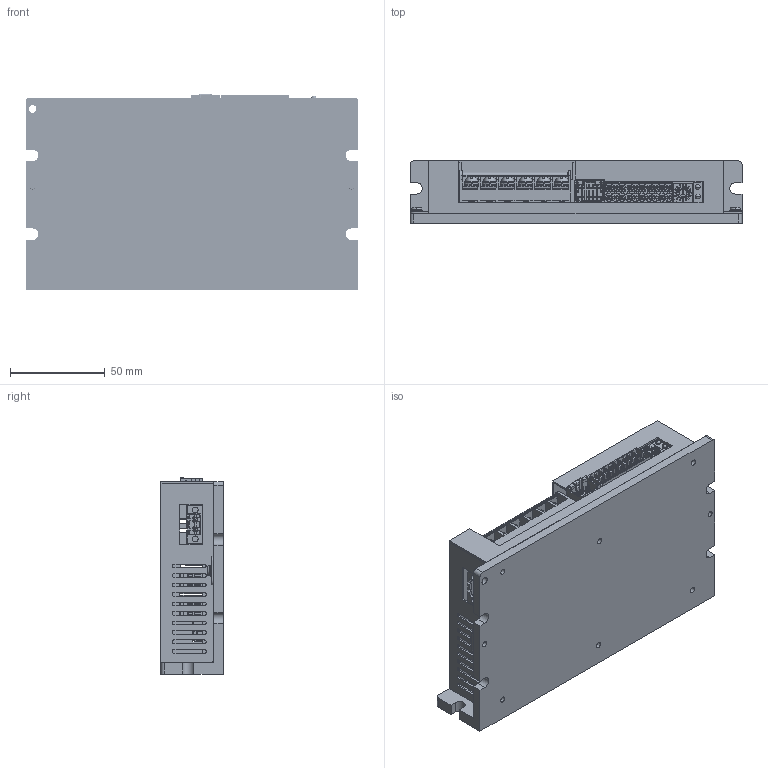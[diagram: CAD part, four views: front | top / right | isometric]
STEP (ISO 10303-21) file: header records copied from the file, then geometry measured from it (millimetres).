
FILE_DESCRIPTION((''),'2;1');
FILE_NAME('ASM0001_LD2_RS7030_ASM_21_ASM_ASM','2021-07-21T',('sunjun'),(''),'PRO/ENGINEER BY PARAMETRIC TECHNOLOGY CORPORATION, 2008090','PRO/ENGINEER BY PARAMETRIC TECHNOLOGY CORPORATION, 2008090','');
FILE_SCHEMA(('CONFIG_CONTROL_DESIGN'));
Length unit declared in the file: millimetre
Products named in the file (21): DB_LD2_RS7030_8; GZ_LD2_RS7030_12; PCB_LD2_RS7030_6; 559591230_1; PHOENIX______2__10_1; ROTARY_DRR3016-Z_FUJISOKU__1; LED_GREEN_RED_1; DIP_SWITCH_4PIN_VIC2_1; 559591030_1; HEADER_2_0_4X_1; CONNECTOR_5MMCLOSED2PIN_MALE_4; MANIFOLD_SOLID_BREP_102974_2; 1111_2; YK44106_1_ASM_3_ASM_ASM; PCB_LD2_RS7030_ASM_8_ASM_ASM; M3_1; M4X10_GB818_1_1; D4_GB9074_26_1_1; D4_GB9074_24_1_1; M4X10_GB9074_4_ASM_1_ASM_ASM; ASM0001_LD2_RS7030_ASM_21_ASM_ASM
Assembly tree (27 placements, depth 4):
  ASM0001_LD2_RS7030_ASM_21_ASM_ASM
    DB_LD2_RS7030_8
    GZ_LD2_RS7030_12
    PCB_LD2_RS7030_ASM_8_ASM_ASM
      PCB_LD2_RS7030_6
      559591230_1
      PHOENIX______2__10_1
      ROTARY_DRR3016-Z_FUJISOKU__1
      LED_GREEN_RED_1
      DIP_SWITCH_4PIN_VIC2_1
      559591030_1  x2
      HEADER_2_0_4X_1
      CONNECTOR_5MMCLOSED2PIN_MALE_4
      YK44106_1_ASM_3_ASM_ASM
        MANIFOLD_SOLID_BREP_102974_2
        1111_2
    M3_1  x2
    M4X10_GB9074_4_ASM_1_ASM_ASM  x6
      M4X10_GB818_1_1
      D4_GB9074_26_1_1
      D4_GB9074_24_1_1
Bounding box: 175 x 33 x 103.45 mm (x, y, z)
Volume: 181320 mm3; surface area: 150990.1 mm2
Topology: 34 solids, 36 shells, 6851 faces, 19554 edges, 12783 vertices
Faces by surface type: plane 4752, cylinder 1203, cone 336, bspline 316, extrusion 128, torus 92, sphere 24
Entity records: 247201 total; most frequent: CARTESIAN_POINT 90447, ORIENTED_EDGE 35172, DIRECTION 28378, EDGE_CURVE 17586, VECTOR 12508, LINE 12380, VERTEX_POINT 11582, AXIS2_PLACEMENT_3D 7935
